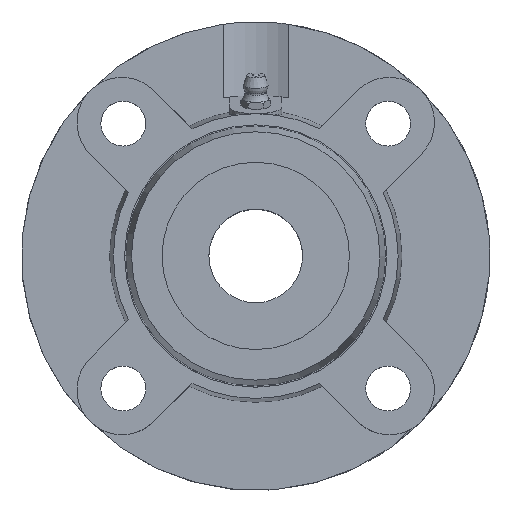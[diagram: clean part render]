
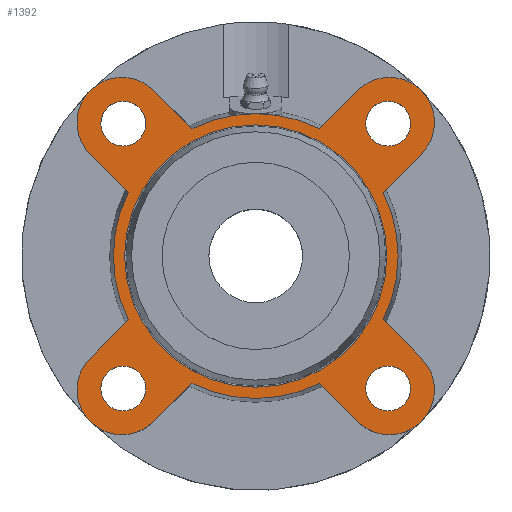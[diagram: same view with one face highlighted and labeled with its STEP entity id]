
A CAD part, top view. The second image highlights one B-rep face of the part: STEP entity #1392.
In plain terms, the highlighted planar face has unit normal (0, 0, 1).
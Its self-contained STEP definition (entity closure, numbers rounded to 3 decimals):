
#112=CARTESIAN_POINT('',(0.0,35.0,16.));
#113=VERTEX_POINT('',#112);
#114=CARTESIAN_POINT('',(0.0,0.,16.));
#115=DIRECTION('',(0.0,0.0,-1.0));
#116=DIRECTION('',(0.0,1.0,0.0));
#117=AXIS2_PLACEMENT_3D('',#114,#115,#116);
#118=CIRCLE('',#117,35.0);
#119=EDGE_CURVE('',#113,#113,#118,.T.);
#265=CARTESIAN_POINT('',(-29.355,-35.355,16.0));
#266=VERTEX_POINT('',#265);
#267=CARTESIAN_POINT('',(-35.355,-35.355,16.));
#268=DIRECTION('',(0.0,0.0,-1.0));
#269=DIRECTION('',(1.0,0.0,0.0));
#270=AXIS2_PLACEMENT_3D('',#267,#268,#269);
#271=CIRCLE('',#270,6.);
#272=EDGE_CURVE('',#266,#266,#271,.T.);
#293=CARTESIAN_POINT('',(-29.355,35.355,16.));
#294=VERTEX_POINT('',#293);
#295=CARTESIAN_POINT('',(-35.355,35.355,16.));
#296=DIRECTION('',(0.0,0.0,-1.0));
#297=DIRECTION('',(1.0,0.0,0.0));
#298=AXIS2_PLACEMENT_3D('',#295,#296,#297);
#299=CIRCLE('',#298,6.);
#300=EDGE_CURVE('',#294,#294,#299,.T.);
#321=CARTESIAN_POINT('',(41.355,35.355,16.));
#322=VERTEX_POINT('',#321);
#323=CARTESIAN_POINT('',(35.355,35.355,16.));
#324=DIRECTION('',(0.0,0.0,-1.0));
#325=DIRECTION('',(1.0,0.0,0.0));
#326=AXIS2_PLACEMENT_3D('',#323,#324,#325);
#327=CIRCLE('',#326,6.);
#328=EDGE_CURVE('',#322,#322,#327,.T.);
#349=CARTESIAN_POINT('',(41.355,-35.355,16.0));
#350=VERTEX_POINT('',#349);
#351=CARTESIAN_POINT('',(35.355,-35.355,16.));
#352=DIRECTION('',(0.0,0.0,-1.0));
#353=DIRECTION('',(1.0,0.0,0.0));
#354=AXIS2_PLACEMENT_3D('',#351,#352,#353);
#355=CIRCLE('',#354,6.);
#356=EDGE_CURVE('',#350,#350,#355,.T.);
#690=CARTESIAN_POINT('',(0.,38.,16.));
#691=VERTEX_POINT('',#690);
#848=CARTESIAN_POINT('',(-17.01,33.98,16.));
#849=VERTEX_POINT('',#848);
#863=CARTESIAN_POINT('',(0.0,0.,16.));
#864=DIRECTION('',(0.0,0.0,1.0));
#865=DIRECTION('',(0.0,-1.0,0.0));
#866=AXIS2_PLACEMENT_3D('',#863,#864,#865);
#867=CIRCLE('',#866,38.);
#868=EDGE_CURVE('',#691,#849,#867,.T.);
#878=CARTESIAN_POINT('',(-17.01,-33.98,16.0));
#879=VERTEX_POINT('',#878);
#895=CARTESIAN_POINT('',(-27.224,-44.194,16.));
#896=VERTEX_POINT('',#895);
#897=CARTESIAN_POINT('',(-17.01,-33.98,16.0));
#898=DIRECTION('',(-0.707,-0.707,0.));
#899=VECTOR('',#898,14.444);
#900=LINE('',#897,#899);
#901=EDGE_CURVE('',#879,#896,#900,.T.);
#925=CARTESIAN_POINT('',(-33.98,17.01,16.));
#926=VERTEX_POINT('',#925);
#942=CARTESIAN_POINT('',(-44.194,27.224,16.));
#943=VERTEX_POINT('',#942);
#944=CARTESIAN_POINT('',(-33.98,17.01,16.));
#945=DIRECTION('',(-0.707,0.707,0.));
#946=VECTOR('',#945,14.444);
#947=LINE('',#944,#946);
#948=EDGE_CURVE('',#926,#943,#947,.T.);
#972=CARTESIAN_POINT('',(33.98,-17.01,16.));
#973=VERTEX_POINT('',#972);
#989=CARTESIAN_POINT('',(44.194,-27.224,16.));
#990=VERTEX_POINT('',#989);
#991=CARTESIAN_POINT('',(33.98,-17.01,16.));
#992=DIRECTION('',(0.707,-0.707,0.));
#993=VECTOR('',#992,14.444);
#994=LINE('',#991,#993);
#995=EDGE_CURVE('',#973,#990,#994,.T.);
#1019=CARTESIAN_POINT('',(17.01,33.98,16.));
#1020=VERTEX_POINT('',#1019);
#1034=CARTESIAN_POINT('',(27.224,44.194,16.));
#1035=VERTEX_POINT('',#1034);
#1036=CARTESIAN_POINT('',(17.01,33.98,16.));
#1037=DIRECTION('',(0.707,0.707,0.));
#1038=VECTOR('',#1037,14.444);
#1039=LINE('',#1036,#1038);
#1040=EDGE_CURVE('',#1020,#1035,#1039,.T.);
#1059=CARTESIAN_POINT('',(33.98,17.01,16.));
#1060=VERTEX_POINT('',#1059);
#1082=CARTESIAN_POINT('',(44.194,27.224,16.));
#1083=VERTEX_POINT('',#1082);
#1090=CARTESIAN_POINT('',(44.194,27.224,16.));
#1091=DIRECTION('',(-0.707,-0.707,0.));
#1092=VECTOR('',#1091,14.444);
#1093=LINE('',#1090,#1092);
#1094=EDGE_CURVE('',#1083,#1060,#1093,.T.);
#1104=CARTESIAN_POINT('',(-44.194,-27.224,16.));
#1105=VERTEX_POINT('',#1104);
#1106=CARTESIAN_POINT('',(-35.709,-35.709,16.));
#1107=DIRECTION('',(0.0,0.0,-1.0));
#1108=DIRECTION('',(-0.707,0.707,0.0));
#1109=AXIS2_PLACEMENT_3D('',#1106,#1107,#1108);
#1110=CIRCLE('',#1109,12.);
#1111=EDGE_CURVE('',#896,#1105,#1110,.T.);
#1146=CARTESIAN_POINT('',(-33.98,-17.01,16.));
#1147=VERTEX_POINT('',#1146);
#1168=CARTESIAN_POINT('',(-44.194,-27.224,16.));
#1169=DIRECTION('',(0.707,0.707,0.));
#1170=VECTOR('',#1169,14.444);
#1171=LINE('',#1168,#1170);
#1172=EDGE_CURVE('',#1105,#1147,#1171,.T.);
#1182=CARTESIAN_POINT('',(-27.224,44.194,16.));
#1183=VERTEX_POINT('',#1182);
#1184=CARTESIAN_POINT('',(-35.709,35.709,16.));
#1185=DIRECTION('',(0.0,0.0,-1.0));
#1186=DIRECTION('',(0.707,0.707,0.0));
#1187=AXIS2_PLACEMENT_3D('',#1184,#1185,#1186);
#1188=CIRCLE('',#1187,12.);
#1189=EDGE_CURVE('',#943,#1183,#1188,.T.);
#1217=CARTESIAN_POINT('',(-27.224,44.194,16.));
#1218=DIRECTION('',(0.707,-0.707,0.));
#1219=VECTOR('',#1218,14.444);
#1220=LINE('',#1217,#1219);
#1221=EDGE_CURVE('',#1183,#849,#1220,.T.);
#1231=CARTESIAN_POINT('',(27.224,-44.194,16.));
#1232=VERTEX_POINT('',#1231);
#1233=CARTESIAN_POINT('',(35.709,-35.709,16.));
#1234=DIRECTION('',(0.0,0.0,-1.0));
#1235=DIRECTION('',(-0.707,-0.707,0.0));
#1236=AXIS2_PLACEMENT_3D('',#1233,#1234,#1235);
#1237=CIRCLE('',#1236,12.);
#1238=EDGE_CURVE('',#990,#1232,#1237,.T.);
#1273=CARTESIAN_POINT('',(17.01,-33.98,16.));
#1274=VERTEX_POINT('',#1273);
#1295=CARTESIAN_POINT('',(27.224,-44.194,16.0));
#1296=DIRECTION('',(-0.707,0.707,0.));
#1297=VECTOR('',#1296,14.444);
#1298=LINE('',#1295,#1297);
#1299=EDGE_CURVE('',#1232,#1274,#1298,.T.);
#1309=CARTESIAN_POINT('',(35.709,35.709,16.));
#1310=DIRECTION('',(0.0,0.0,-1.0));
#1311=DIRECTION('',(0.707,-0.707,0.0));
#1312=AXIS2_PLACEMENT_3D('',#1309,#1310,#1311);
#1313=CIRCLE('',#1312,12.);
#1314=EDGE_CURVE('',#1035,#1083,#1313,.T.);
#1329=CARTESIAN_POINT('',(0.0,-19.,16.));
#1330=DIRECTION('',(0.0,0.0,1.0));
#1331=DIRECTION('',(1.0,0.0,0.0));
#1332=AXIS2_PLACEMENT_3D('',#1329,#1330,#1331);
#1333=PLANE('',#1332);
#1334=CARTESIAN_POINT('',(0.0,0.,16.));
#1335=DIRECTION('',(0.0,0.0,1.0));
#1336=DIRECTION('',(0.0,-1.0,0.0));
#1337=AXIS2_PLACEMENT_3D('',#1334,#1335,#1336);
#1338=CIRCLE('',#1337,38.);
#1339=EDGE_CURVE('',#879,#1274,#1338,.T.);
#1340=ORIENTED_EDGE('',*,*,#1339,.T.);
#1341=ORIENTED_EDGE('',*,*,#1299,.F.);
#1342=ORIENTED_EDGE('',*,*,#1238,.F.);
#1343=ORIENTED_EDGE('',*,*,#995,.F.);
#1344=CARTESIAN_POINT('',(0.0,0.,16.));
#1345=DIRECTION('',(0.0,0.0,1.0));
#1346=DIRECTION('',(0.0,-1.0,0.0));
#1347=AXIS2_PLACEMENT_3D('',#1344,#1345,#1346);
#1348=CIRCLE('',#1347,38.);
#1349=EDGE_CURVE('',#973,#1060,#1348,.T.);
#1350=ORIENTED_EDGE('',*,*,#1349,.T.);
#1351=ORIENTED_EDGE('',*,*,#1094,.F.);
#1352=ORIENTED_EDGE('',*,*,#1314,.F.);
#1353=ORIENTED_EDGE('',*,*,#1040,.F.);
#1354=CARTESIAN_POINT('',(0.0,0.,16.));
#1355=DIRECTION('',(0.0,0.0,1.0));
#1356=DIRECTION('',(0.0,-1.0,0.0));
#1357=AXIS2_PLACEMENT_3D('',#1354,#1355,#1356);
#1358=CIRCLE('',#1357,38.);
#1359=EDGE_CURVE('',#1020,#691,#1358,.T.);
#1360=ORIENTED_EDGE('',*,*,#1359,.T.);
#1361=ORIENTED_EDGE('',*,*,#868,.T.);
#1362=ORIENTED_EDGE('',*,*,#1221,.F.);
#1363=ORIENTED_EDGE('',*,*,#1189,.F.);
#1364=ORIENTED_EDGE('',*,*,#948,.F.);
#1365=CARTESIAN_POINT('',(0.0,0.,16.));
#1366=DIRECTION('',(0.0,0.0,1.0));
#1367=DIRECTION('',(0.0,-1.0,0.0));
#1368=AXIS2_PLACEMENT_3D('',#1365,#1366,#1367);
#1369=CIRCLE('',#1368,38.);
#1370=EDGE_CURVE('',#926,#1147,#1369,.T.);
#1371=ORIENTED_EDGE('',*,*,#1370,.T.);
#1372=ORIENTED_EDGE('',*,*,#1172,.F.);
#1373=ORIENTED_EDGE('',*,*,#1111,.F.);
#1374=ORIENTED_EDGE('',*,*,#901,.F.);
#1375=EDGE_LOOP('',(#1340,#1341,#1342,#1343,#1350,#1351,#1352,#1353,#1360,#1361,#1362,#1363,#1364,#1371,#1372,#1373,#1374));
#1376=FACE_OUTER_BOUND('',#1375,.T.);
#1377=ORIENTED_EDGE('',*,*,#119,.T.);
#1378=EDGE_LOOP('',(#1377));
#1379=FACE_BOUND('',#1378,.T.);
#1380=ORIENTED_EDGE('',*,*,#272,.T.);
#1381=EDGE_LOOP('',(#1380));
#1382=FACE_BOUND('',#1381,.T.);
#1383=ORIENTED_EDGE('',*,*,#300,.T.);
#1384=EDGE_LOOP('',(#1383));
#1385=FACE_BOUND('',#1384,.T.);
#1386=ORIENTED_EDGE('',*,*,#328,.T.);
#1387=EDGE_LOOP('',(#1386));
#1388=FACE_BOUND('',#1387,.T.);
#1389=ORIENTED_EDGE('',*,*,#356,.T.);
#1390=EDGE_LOOP('',(#1389));
#1391=FACE_BOUND('',#1390,.T.);
#1392=ADVANCED_FACE('',(#1376,#1379,#1382,#1385,#1388,#1391),#1333,.T.);
